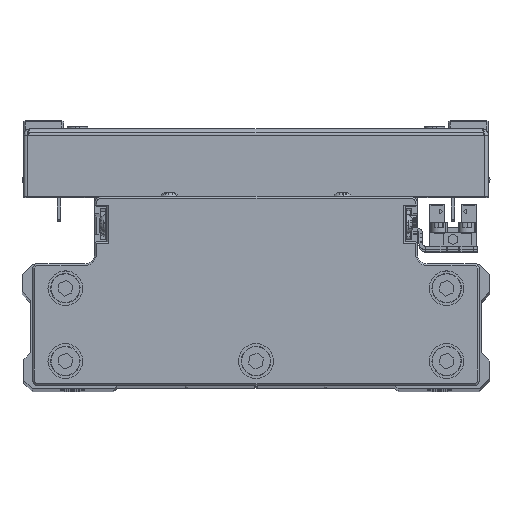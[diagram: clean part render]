
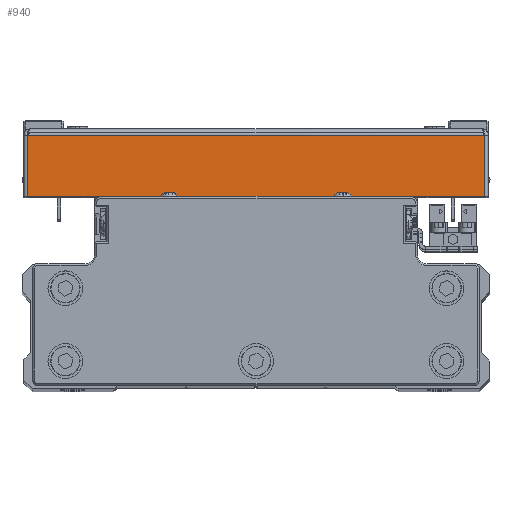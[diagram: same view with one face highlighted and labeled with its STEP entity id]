
A CAD part, top view. The second image highlights one B-rep face of the part: STEP entity #940.
In plain terms, the highlighted planar face has unit normal (0, 0, 1) as drawn and (1, 0, 0) by its records, which use the part's own axes.
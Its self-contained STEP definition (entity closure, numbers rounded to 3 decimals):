
#375 = ORIENTED_EDGE ( 'NONE', *, *, #497, .T. ) ;
#497 = EDGE_CURVE ( 'NONE', #35984, #15539, #18553, .T. ) ;
#940 = ADVANCED_FACE ( 'NONE', ( #38272 ), #7847, .F. ) ;
#1686 = DIRECTION ( 'NONE',  ( 0., 1., 0. ) ) ;
#3438 = EDGE_CURVE ( 'NONE', #15539, #22890, #12625, .T. ) ;
#4538 = DIRECTION ( 'NONE',  ( 0., -1., 0. ) ) ;
#5710 = CARTESIAN_POINT ( 'NONE',  ( 100., 0., 65.929 ) ) ;
#7437 = CARTESIAN_POINT ( 'NONE',  ( 100., 1., 67. ) ) ;
#7847 = PLANE ( 'NONE',  #34536 ) ;
#10242 = EDGE_CURVE ( 'NONE', #35984, #25770, #37866, .T. ) ;
#12625 = LINE ( 'NONE', #26182, #16961 ) ;
#15539 = VERTEX_POINT ( 'NONE', #19461 ) ;
#15821 = VECTOR ( 'NONE', #20991, 1000. ) ;
#16961 = VECTOR ( 'NONE', #39730, 1000. ) ;
#18553 = LINE ( 'NONE', #32106, #40685 ) ;
#19273 = DIRECTION ( 'NONE',  ( 0., 1., 0. ) ) ;
#19461 = CARTESIAN_POINT ( 'NONE',  ( 100., 18.5, -65.929 ) ) ;
#20991 = DIRECTION ( 'NONE',  ( 0., 0., 1. ) ) ;
#21410 = CARTESIAN_POINT ( 'NONE',  ( 100., 0., 0. ) ) ;
#22890 = VERTEX_POINT ( 'NONE', #29425 ) ;
#23205 = ORIENTED_EDGE ( 'NONE', *, *, #30499, .F. ) ;
#25770 = VERTEX_POINT ( 'NONE', #33294 ) ;
#26182 = CARTESIAN_POINT ( 'NONE',  ( 100., 18.5, 0. ) ) ;
#26581 = VECTOR ( 'NONE', #19273, 1000. ) ;
#29425 = CARTESIAN_POINT ( 'NONE',  ( 100., 18.5, 65.929 ) ) ;
#30499 = EDGE_CURVE ( 'NONE', #25770, #22890, #36148, .T. ) ;
#32106 = CARTESIAN_POINT ( 'NONE',  ( 100., 0., -65.929 ) ) ;
#33294 = CARTESIAN_POINT ( 'NONE',  ( 100., 1., 65.929 ) ) ;
#34243 = CARTESIAN_POINT ( 'NONE',  ( 100., 1., -65.929 ) ) ;
#34536 = AXIS2_PLACEMENT_3D ( 'NONE', #21410, #34962, #4538 ) ;
#34962 = DIRECTION ( 'NONE',  ( -1., 0., 0. ) ) ;
#35343 = ORIENTED_EDGE ( 'NONE', *, *, #10242, .F. ) ;
#35984 = VERTEX_POINT ( 'NONE', #34243 ) ;
#36148 = LINE ( 'NONE', #5710, #26581 ) ;
#37497 = ORIENTED_EDGE ( 'NONE', *, *, #3438, .T. ) ;
#37866 = LINE ( 'NONE', #7437, #15821 ) ;
#38272 = FACE_OUTER_BOUND ( 'NONE', #43825, .T. ) ;
#39730 = DIRECTION ( 'NONE',  ( 0., 0., 1. ) ) ;
#40685 = VECTOR ( 'NONE', #1686, 1000. ) ;
#43825 = EDGE_LOOP ( 'NONE', ( #35343, #375, #37497, #23205 ) ) ;
